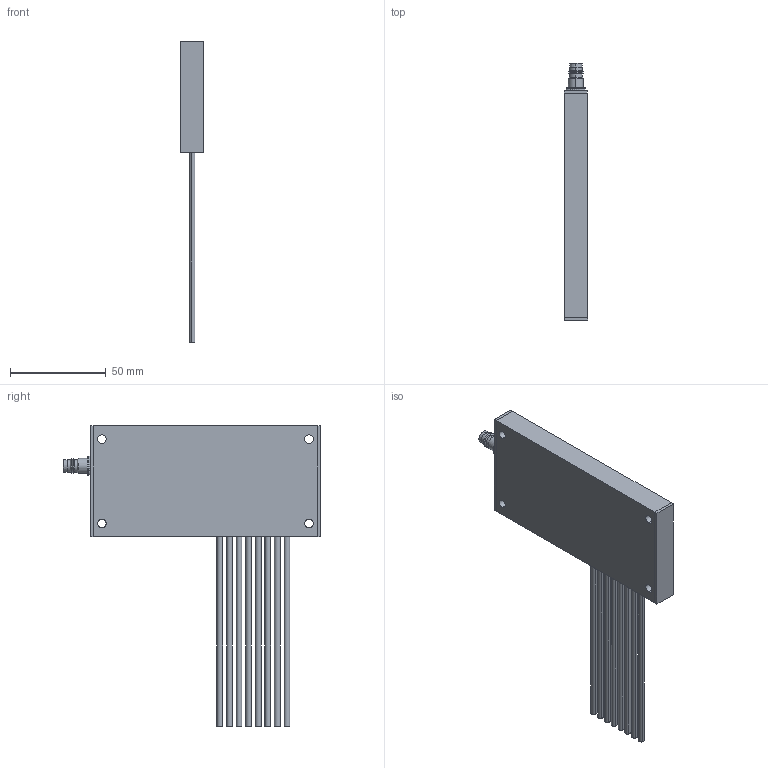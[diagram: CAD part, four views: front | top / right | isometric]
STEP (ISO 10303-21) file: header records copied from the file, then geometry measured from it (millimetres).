
FILE_DESCRIPTION (( 'STEP AP203' ), '1' );
FILE_NAME ('CSL505-RxTx05-35-M8.STEP', '2016-02-11T09:39:09', ( '' ), ( '' ), 'SwSTEP 2.0', 'SolidWorks 2015', '' );
FILE_SCHEMA (( 'CONFIG_CONTROL_DESIGN' ));
Length unit declared in the file: millimetre
Products named in the file (2): CSL505-RxTx05-35-M8
Bounding box: 12.14 x 134.01 x 156.77 mm (x, y, z)
Volume: 87804.8 mm3; surface area: 27581.2 mm2
Topology: 1 solids, 1 shells, 179 faces, 468 edges, 302 vertices
Faces by surface type: plane 105, cylinder 62, cone 12
Entity records: 5651 total; most frequent: DIRECTION 968, CARTESIAN_POINT 951, ORIENTED_EDGE 936, EDGE_CURVE 468, VECTOR 330, LINE 330, AXIS2_PLACEMENT_3D 319, VERTEX_POINT 302
